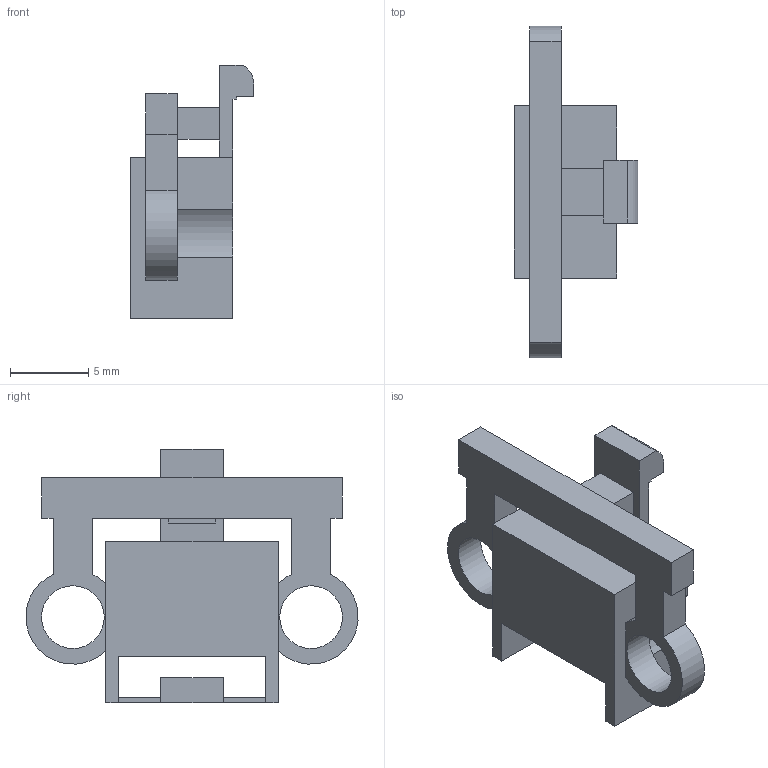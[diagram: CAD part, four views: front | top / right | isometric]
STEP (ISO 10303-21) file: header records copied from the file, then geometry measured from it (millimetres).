
FILE_DESCRIPTION(('Open CASCADE Model'),'2;1');
FILE_NAME('Open CASCADE Shape Model','2026-09-06T11:46:51',('Author'),( 'Open CASCADE'),'Open CASCADE STEP processor 7.7','Open CASCADE 7.7' ,'Unknown');
FILE_SCHEMA(('AUTOMOTIVE_DESIGN { 1 0 10303 214 1 1 1 1 }'));
Length unit declared in the file: millimetre
Products named in the file (1): Open CASCADE STEP translator 7.7 2
Bounding box: 7.9 x 21.18 x 16.15 mm (x, y, z)
Volume: 407 mm3; surface area: 1065 mm2
Topology: 1 solids, 1 shells, 63 faces, 189 edges, 126 vertices
Faces by surface type: plane 52, cylinder 11
Full cylindrical faces by diameter (mm): 4 x2
Entity records: 4495 total; most frequent: CARTESIAN_POINT 926, DIRECTION 588, LINE 402, VECTOR 402, ORIENTED_EDGE 378, PCURVE 378, DEFINITIONAL_REPRESENTATION 378, EDGE_CURVE 189
